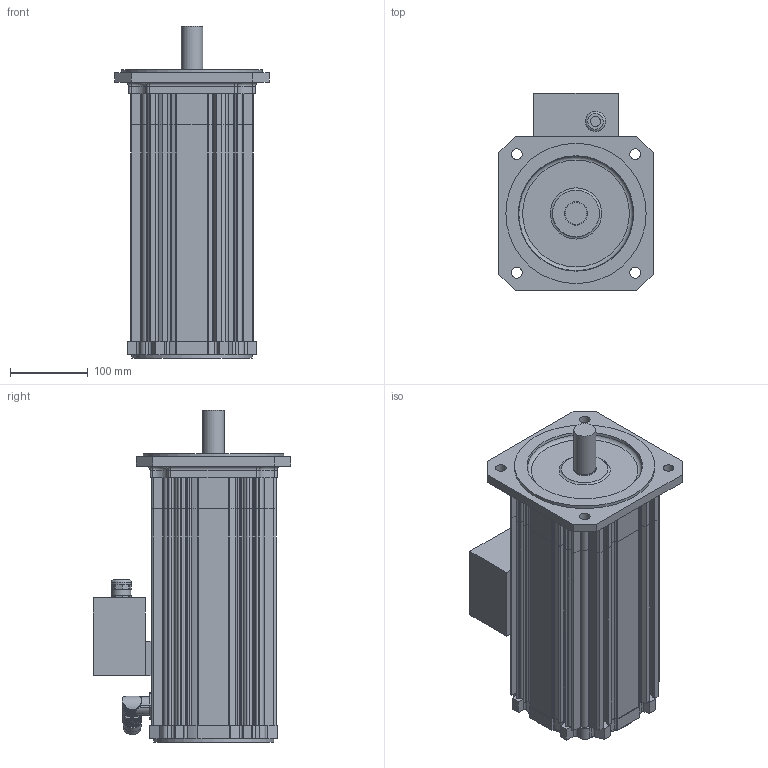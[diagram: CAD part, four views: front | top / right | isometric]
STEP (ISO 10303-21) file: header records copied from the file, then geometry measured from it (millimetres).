
FILE_DESCRIPTION(/* description */ (''),/* implementation_level */ '2;1');
FILE_NAME(/* name */ 'KSA8412_Ix',/* time_stamp */ '2009-02-26T16:09:03+01:00',/* author */ (''),/* organization */ (''),/* preprocessor_version */ 'ST-DEVELOPER v8',/* originating_system */ 'UNIGRAPHICS SOLUTIONS - UNIGRAPHICS 18.0',/* authorisation */ '');
FILE_SCHEMA (('AUTOMOTIVE_DESIGN { 1 2 10303 214 0 1 1 1 }'));
Length unit declared in the file: millimetre
Products named in the file (7): 0280391600_0; Winkelflanschdose_0; Lagersch_8BS_0; Lagersch_8AS_0; 089107X_0; SK3958_0; KSA8412_Ix_0
Assembly tree (6 placements, depth 3):
  KSA8412_Ix_0
    089107X_0
    Lagersch_8AS_0
    Lagersch_8BS_0
    SK3958_0
      0280391600_0
    Winkelflanschdose_0
Bounding box: 198 x 253.35 x 426 mm (x, y, z)
Volume: 3482004.2 mm3; surface area: 779962.3 mm2
Topology: 7 solids, 7 shells, 832 faces, 2360 edges, 1563 vertices
Faces by surface type: cylinder 484, plane 323, torus 23, cone 2
Full cylindrical faces by diameter (mm): 13 x1, 14 x4, 16 x1, 20 x3, 21 x1, 21.5 x1, 23 x2, 24 x1, 26 x1, 28 x1, 30 x1, 35 x1, 143 x1, 149.6 x2, 151 x2, 154 x1, 180 x1
Entity records: 27709 total; most frequent: CARTESIAN_POINT 5454, DIRECTION 4726, ORIENTED_EDGE 4644, EDGE_CURVE 2322, AXIS2_PLACEMENT_3D 1729, VERTEX_POINT 1555, LINE 1268, VECTOR 1268
